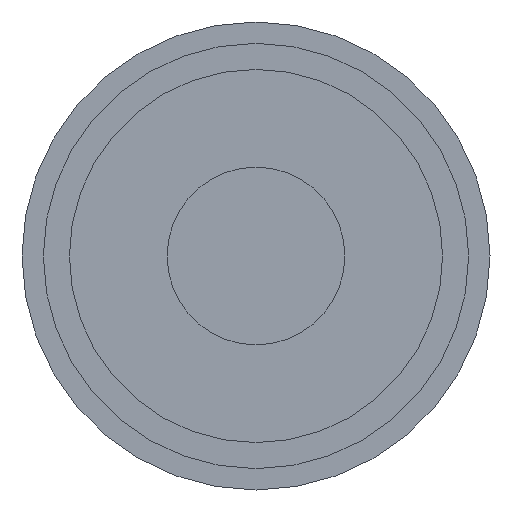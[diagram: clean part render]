
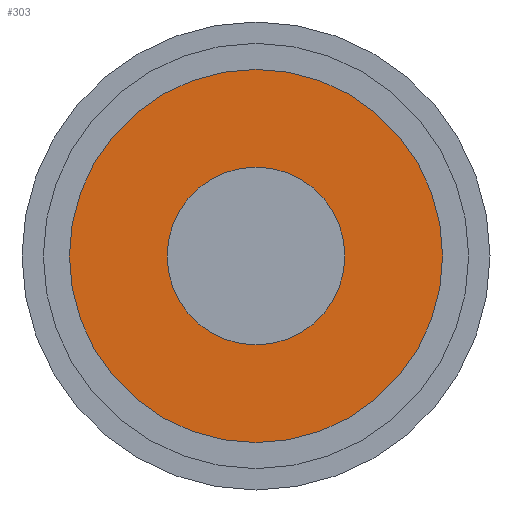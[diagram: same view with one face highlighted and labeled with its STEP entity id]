
A CAD part, front view. The second image highlights one B-rep face of the part: STEP entity #303.
In plain terms, the highlighted planar face has unit normal (0, -1, 0).
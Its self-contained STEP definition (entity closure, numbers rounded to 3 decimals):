
#21 = CIRCLE ( 'NONE', #53, 3.15 ) ;
#35 = EDGE_CURVE ( 'NONE', #369, #360, #111, .T. ) ;
#43 = ORIENTED_EDGE ( 'NONE', *, *, #174, .T. ) ;
#53 = AXIS2_PLACEMENT_3D ( 'NONE', #260, #266, #268 ) ;
#60 = CARTESIAN_POINT ( 'NONE',  ( 0., 0., -1.5 ) ) ;
#63 = CARTESIAN_POINT ( 'NONE',  ( 0., 0., 1.5 ) ) ;
#87 = CARTESIAN_POINT ( 'NONE',  ( 0., 0., -3.15 ) ) ;
#111 = CIRCLE ( 'NONE', #375, 1.5 ) ;
#121 = EDGE_LOOP ( 'NONE', ( #347, #43 ) ) ;
#129 = CARTESIAN_POINT ( 'NONE',  ( 0., 0., 0. ) ) ;
#131 = CARTESIAN_POINT ( 'NONE',  ( 0., 0., 3.15 ) ) ;
#146 = DIRECTION ( 'NONE',  ( 0., 0., -1. ) ) ;
#148 = DIRECTION ( 'NONE',  ( 0., -1., 0. ) ) ;
#149 = ORIENTED_EDGE ( 'NONE', *, *, #306, .F. ) ;
#153 = CARTESIAN_POINT ( 'NONE',  ( 0., 0., 0. ) ) ;
#168 = FACE_OUTER_BOUND ( 'NONE', #121, .T. ) ;
#174 = EDGE_CURVE ( 'NONE', #317, #336, #21, .T. ) ;
#175 = AXIS2_PLACEMENT_3D ( 'NONE', #365, #367, #372 ) ;
#204 = FACE_BOUND ( 'NONE', #370, .T. ) ;
#215 = DIRECTION ( 'NONE',  ( 0., -1., 0. ) ) ;
#216 = DIRECTION ( 'NONE',  ( 0., 0., -1. ) ) ;
#227 = EDGE_CURVE ( 'NONE', #336, #317, #310, .T. ) ;
#253 = CARTESIAN_POINT ( 'NONE',  ( 0., 0., 0. ) ) ;
#260 = CARTESIAN_POINT ( 'NONE',  ( 0., 0., 0. ) ) ;
#264 = AXIS2_PLACEMENT_3D ( 'NONE', #153, #148, #146 ) ;
#266 = DIRECTION ( 'NONE',  ( 0., -1., 0. ) ) ;
#268 = DIRECTION ( 'NONE',  ( 0., 0., -1. ) ) ;
#281 = AXIS2_PLACEMENT_3D ( 'NONE', #253, #343, #346 ) ;
#282 = PLANE ( 'NONE',  #281 ) ;
#303 = ADVANCED_FACE ( 'NONE', ( #204, #168 ), #282, .T. ) ;
#306 = EDGE_CURVE ( 'NONE', #360, #369, #364, .T. ) ;
#310 = CIRCLE ( 'NONE', #175, 3.15 ) ;
#317 = VERTEX_POINT ( 'NONE', #131 ) ;
#336 = VERTEX_POINT ( 'NONE', #87 ) ;
#343 = DIRECTION ( 'NONE',  ( 0., -1., 0. ) ) ;
#346 = DIRECTION ( 'NONE',  ( 0., 0., -1. ) ) ;
#347 = ORIENTED_EDGE ( 'NONE', *, *, #227, .T. ) ;
#360 = VERTEX_POINT ( 'NONE', #63 ) ;
#364 = CIRCLE ( 'NONE', #264, 1.5 ) ;
#365 = CARTESIAN_POINT ( 'NONE',  ( 0., 0., 0. ) ) ;
#367 = DIRECTION ( 'NONE',  ( 0., -1., 0. ) ) ;
#368 = ORIENTED_EDGE ( 'NONE', *, *, #35, .F. ) ;
#369 = VERTEX_POINT ( 'NONE', #60 ) ;
#370 = EDGE_LOOP ( 'NONE', ( #368, #149 ) ) ;
#372 = DIRECTION ( 'NONE',  ( 0., 0., -1. ) ) ;
#375 = AXIS2_PLACEMENT_3D ( 'NONE', #129, #215, #216 ) ;
